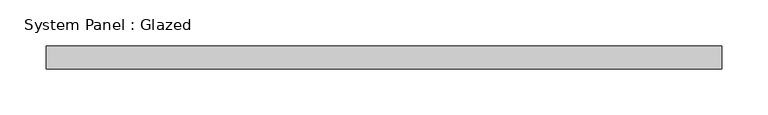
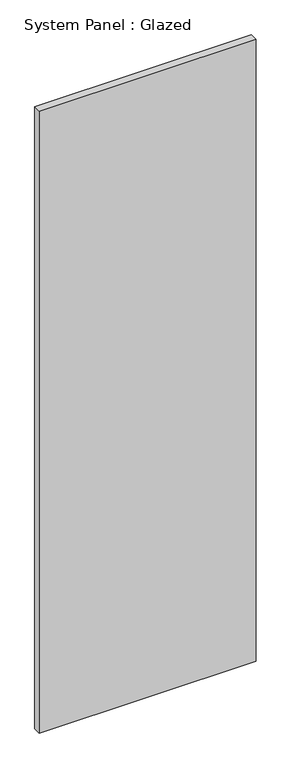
"""IFC4 building model written with IfcOpenShell, lengths in millimetres: plate geometry, System Panel : Glazed."""

import ifcopenshell
import ifcopenshell.guid

model = None  # the IFC model being written
_history = None  # IfcOwnerHistory: only IFC2X3 demands one
_inside = {}  # id of a spatial element -> (the spatial element, [elements in it])
_under = {}  # id of a project, library or spatial element -> (it, [spatial elements below it])
_declared = {}  # id of a project -> (the project, [libraries it declares])
_typed = {}  # id of a type object -> (the type object, [elements of that type])
_made_of = {}  # id of a material, layer set ... -> (it, [elements and type objects made of it])


def new_model(schema):
    """Start an empty IFC model of exactly this schema.

    Asked for "IFC4X3", IfcOpenShell would pick the latest addendum, in which some entities
    have other attributes; the version numbers below select the first issue.
    IFC2X3 requires an IfcOwnerHistory on every rooted entity: one is made here for all.
    """
    global model, _history
    if schema == "IFC4X3":
        model = ifcopenshell.file(schema_version=(4, 3, 0, 0))
    else:
        model = ifcopenshell.file(schema=schema)
    _inside.clear()
    _under.clear()
    _declared.clear()
    _typed.clear()
    _made_of.clear()
    _history = None
    if model.schema == "IFC2X3":
        org = make("IfcOrganization", Name="unknown")
        user = make(
            "IfcPersonAndOrganization",
            ThePerson=make("IfcPerson", FamilyName="unknown"),
            TheOrganization=org,
        )
        app = make(
            "IfcApplication",
            ApplicationDeveloper=org,
            Version="unknown",
            ApplicationFullName="unknown",
            ApplicationIdentifier="unknown",
        )
        _history = make(
            "IfcOwnerHistory",
            OwningUser=user,
            OwningApplication=app,
            ChangeAction="ADDED",
            CreationDate=0,
        )
    return model


def make(cls, **values):
    """One entity of the class cls with the attributes given. An attribute that is None is left unset."""
    return model.create_entity(
        cls, **{name: value for name, value in values.items() if value is not None}
    )


def rooted(cls, **values):
    """An entity with a GlobalId (a new one), such as an element, a storey or a relation."""
    return make(cls, GlobalId=ifcopenshell.guid.new(), OwnerHistory=_history, **values)


def si_unit(unit_type, name, prefix=None):
    """IfcSIUnit, for example si_unit("LENGTHUNIT", "METRE", prefix="MILLI")."""
    return make("IfcSIUnit", UnitType=unit_type, Prefix=prefix, Name=name)


def assignment(units):
    """IfcUnitAssignment: the units of a project."""
    return None if units is None else make("IfcUnitAssignment", Units=units)


def point(xyz):
    """IfcCartesianPoint."""
    return None if xyz is None else make("IfcCartesianPoint", Coordinates=xyz)


def direction(xyz):
    """IfcDirection."""
    return None if xyz is None else make("IfcDirection", DirectionRatios=xyz)


def frame(location, z_axis=None, x_axis=None):
    """IfcAxis2Placement3D, a coordinate frame: its origin and axes. An axis left out is left unset."""
    return make(
        "IfcAxis2Placement3D",
        Location=point(location),
        Axis=direction(z_axis),
        RefDirection=direction(x_axis),
    )


def origin():
    """The frame at (0, 0, 0) with its axes left unset."""
    return frame((0.0, 0.0, 0.0))


def origin_with_axes():
    """The frame at (0, 0, 0) with the z axis (0, 0, 1) and the x axis (1, 0, 0) written out."""
    return frame((0.0, 0.0, 0.0), z_axis=(0.0, 0.0, 1.0), x_axis=(1.0, 0.0, 0.0))


def place(relative_to, where):
    """IfcLocalPlacement: puts the frame where relative to a parent placement (None: the world)."""
    return make(
        "IfcLocalPlacement", PlacementRelTo=relative_to, RelativePlacement=where
    )


def context(
    kind, dimensions, precision=None, world=None, true_north=None, identifier=None
):
    """IfcGeometricRepresentationContext, for example the 3D "Model" context."""
    return make(
        "IfcGeometricRepresentationContext",
        ContextIdentifier=identifier,
        ContextType=kind,
        CoordinateSpaceDimension=dimensions,
        Precision=precision,
        WorldCoordinateSystem=world,
        TrueNorth=true_north,
    )


def project(units=None, contexts=None):
    """IfcProject with its units and contexts."""
    return rooted(
        "IfcProject",
        Name="project",
        RepresentationContexts=contexts,
        UnitsInContext=assignment(units),
    )


def spatial(cls, under=None, at=None, **own):
    """A site, building, storey or space (cls), placed at a placement, below another one or the project."""
    s = rooted(cls, ObjectPlacement=at, **own)
    if under is not None:
        _under.setdefault(under.id(), (under, []))[1].append(s)
    return s


def polyline(points):
    """IfcPolyline through the points."""
    return make("IfcPolyline", Points=[point(p) for p in points])


def outline(outer, holes=None, kind="AREA"):
    """IfcArbitraryClosedProfileDef: a profile drawn as a closed curve; with holes, ...WithVoids."""
    if holes is None:
        return make("IfcArbitraryClosedProfileDef", ProfileType=kind, OuterCurve=outer)
    return make(
        "IfcArbitraryProfileDefWithVoids",
        ProfileType=kind,
        OuterCurve=outer,
        InnerCurves=holes,
    )


def extrude(swept, where, along, depth):
    """IfcExtrudedAreaSolid: the profile swept, set in the frame where, extruded along a direction by depth."""
    return make(
        "IfcExtrudedAreaSolid",
        SweptArea=swept,
        Position=where,
        ExtrudedDirection=direction(along),
        Depth=depth,
    )


def shape(context_of_items, identifier, shape_type, items):
    """IfcShapeRepresentation: the items that make up one representation, for example the "Body"."""
    return make(
        "IfcShapeRepresentation",
        ContextOfItems=context_of_items,
        RepresentationIdentifier=identifier,
        RepresentationType=shape_type,
        Items=items,
    )


def source(mapping_origin, context_of_items, identifier, shape_type, items):
    """IfcRepresentationMap: a shape defined once, which mapped items show again and again."""
    return make(
        "IfcRepresentationMap",
        MappingOrigin=mapping_origin,
        MappedRepresentation=shape(context_of_items, identifier, shape_type, items),
    )


def transform(
    local_origin,
    x_axis=None,
    y_axis=None,
    z_axis=None,
    scale=None,
    scale2=None,
    scale3=None,
    uniform=True,
):
    """IfcCartesianTransformationOperator3D, or its non-uniform kind. x_axis, y_axis, z_axis: its Axis1, 2, 3."""
    if uniform:
        return make(
            "IfcCartesianTransformationOperator3D",
            Axis1=direction(x_axis),
            Axis2=direction(y_axis),
            LocalOrigin=point(local_origin),
            Scale=scale,
            Axis3=direction(z_axis),
        )
    return make(
        "IfcCartesianTransformationOperator3DnonUniform",
        Axis1=direction(x_axis),
        Axis2=direction(y_axis),
        LocalOrigin=point(local_origin),
        Scale=scale,
        Axis3=direction(z_axis),
        Scale2=scale2,
        Scale3=scale3,
    )


def mapped(mapping_source, mapping_target):
    """IfcMappedItem: shows the shape of a source again, moved by a transform."""
    return make(
        "IfcMappedItem", MappingSource=mapping_source, MappingTarget=mapping_target
    )


def made_of(thing, what):
    """Note that an element or type object is made of a material, layer set ...; save() writes the relation."""
    if what is not None:
        _made_of.setdefault(what.id(), (what, []))[1].append(thing)
    return thing


def element(
    cls,
    number,
    at=None,
    inside=None,
    cuts=None,
    type_object=None,
    material=None,
    context=None,
    identifier="Body",
    shape_type=None,
    held_by="IfcProductDefinitionShape",
    body=None,
    shapes=None,
    **own,
):
    """One element of the class cls, such as IfcWall. Its Tag is "e" and its number.

    at: its placement. inside: the storey or other place that contains it. cuts: it is an
    opening in that element (IfcRelVoidsElement). A single representation is given by context,
    identifier, shape_type and body (its items); several are given by shapes. held_by: the class
    of the entity that holds the representations. save() writes the other relations.
    """
    e = rooted(cls, Tag="e%d" % number, ObjectPlacement=at, **own)
    if body is not None:
        shapes = [shape(context, identifier, shape_type, body)]
    if shapes is not None:
        e.Representation = make(held_by, Representations=shapes)
    if inside is not None:
        _inside.setdefault(inside.id(), (inside, []))[1].append(e)
    if cuts is not None:
        rooted(
            "IfcRelVoidsElement", RelatingBuildingElement=cuts, RelatedOpeningElement=e
        )
    if type_object is not None:
        _typed.setdefault(type_object.id(), (type_object, []))[1].append(e)
    return made_of(e, material)


def aggregate(whole, parts):
    """IfcRelAggregates: a whole, such as a stair, and the parts it consists of."""
    return rooted("IfcRelAggregates", RelatingObject=whole, RelatedObjects=parts)


def save(model, path):
    """Write the relations noted so far, then the file.

    IfcRelAggregates (storeys below a building ...), IfcRelContainedInSpatialStructure (elements
    in a storey), IfcRelDefinesByType, IfcRelAssociatesMaterial and IfcRelDeclares: one each for
    every whole, place, type object, material and project.
    """
    for whole, parts in _under.values():
        aggregate(whole, parts)
    for where, things in _inside.values():
        rooted(
            "IfcRelContainedInSpatialStructure",
            RelatedElements=things,
            RelatingStructure=where,
        )
    for kind, things in _typed.values():
        rooted("IfcRelDefinesByType", RelatedObjects=things, RelatingType=kind)
    for what, things in _made_of.values():
        rooted("IfcRelAssociatesMaterial", RelatedObjects=things, RelatingMaterial=what)
    for by, libraries in _declared.values():
        rooted("IfcRelDeclares", RelatingContext=by, RelatedDefinitions=libraries)
    model.write(path)


def system_panel_glazed_d7ec0edf(model_context):
    return source(origin(), model_context, "Body", "SweptSolid", [
        extrude(outline(polyline([(367.0833333, 24.5), (-367.0833333, 24.5), (-367.0833333, 49.5), (367.0833333, 49.5), (367.0833333, 24.5)])), origin_with_axes(), (0.0, 0.0, 1.0), 2225.0),
    ])


if __name__ == "__main__":
    model = new_model("IFC4")
    model_context = context("Model", 3, world=origin())
    ifc_project = project(units=[si_unit("LENGTHUNIT", "METRE", prefix="MILLI")], contexts=[model_context])
    site = spatial("IfcSite", under=ifc_project)
    building = spatial("IfcBuilding", under=site)
    placement = place(None, origin())
    system_panel_glazed_shape = system_panel_glazed_d7ec0edf(model_context)
    element("IfcPlate", 1, ObjectType="System Panel : Glazed", at=placement, inside=building, context=model_context, shape_type="MappedRepresentation", body=[
        mapped(system_panel_glazed_shape, transform((0.0, 0.0, 0.0), x_axis=(1.0, 0.0, 0.0), y_axis=(0.0, 1.0, 0.0), z_axis=(0.0, 0.0, 1.0))),
    ])
    save(model, "model.ifc")
